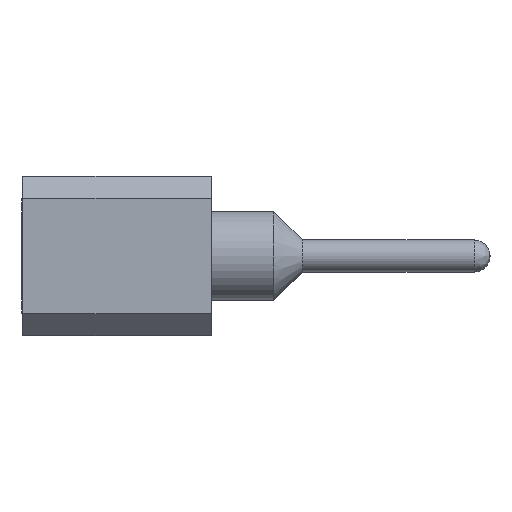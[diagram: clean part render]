
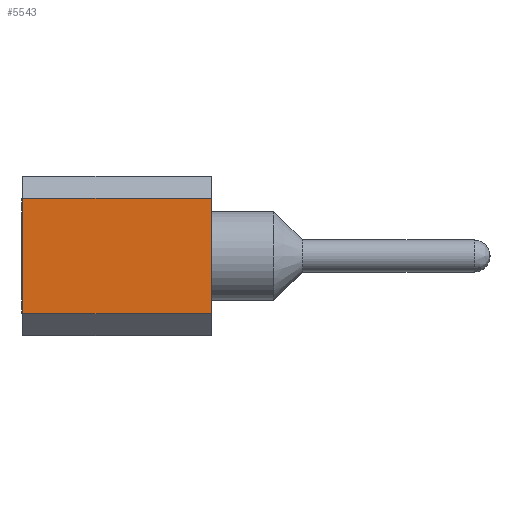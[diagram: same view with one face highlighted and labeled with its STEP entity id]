
A CAD part, left-side view. The second image highlights one B-rep face of the part: STEP entity #5543.
In plain terms, the highlighted planar face has unit normal (-1, 0, 0).
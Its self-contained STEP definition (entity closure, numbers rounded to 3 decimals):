
#264=PLANE('',#6164);
#681=FACE_OUTER_BOUND('',#1044,.T.);
#1044=EDGE_LOOP('',(#4647,#4648,#4649,#4650));
#1473=LINE('',#9616,#1979);
#1474=LINE('',#9619,#1980);
#1475=LINE('',#9621,#1981);
#1476=LINE('',#9622,#1982);
#1979=VECTOR('',#7570,10.);
#1980=VECTOR('',#7573,10.);
#1981=VECTOR('',#7574,10.);
#1982=VECTOR('',#7575,10.);
#2781=VERTEX_POINT('',#9612);
#2782=VERTEX_POINT('',#9614);
#2783=VERTEX_POINT('',#9618);
#2784=VERTEX_POINT('',#9620);
#3478=EDGE_CURVE('',#2781,#2782,#1473,.T.);
#3479=EDGE_CURVE('',#2781,#2783,#1474,.T.);
#3480=EDGE_CURVE('',#2784,#2782,#1475,.T.);
#3481=EDGE_CURVE('',#2783,#2784,#1476,.T.);
#4647=ORIENTED_EDGE('',*,*,#3479,.F.);
#4648=ORIENTED_EDGE('',*,*,#3478,.T.);
#4649=ORIENTED_EDGE('',*,*,#3480,.F.);
#4650=ORIENTED_EDGE('',*,*,#3481,.F.);
#5543=ADVANCED_FACE('',(#681),#264,.T.);
#6164=AXIS2_PLACEMENT_3D('',#9617,#7571,#7572);
#7570=DIRECTION('',(0.,1.,0.));
#7571=DIRECTION('center_axis',(-1.,0.,0.));
#7572=DIRECTION('ref_axis',(0.,0.,1.));
#7573=DIRECTION('',(0.,0.,-1.));
#7574=DIRECTION('',(0.,0.,1.));
#7575=DIRECTION('',(0.,1.,0.));
#9612=CARTESIAN_POINT('',(-1.266,0.,0.916));
#9614=CARTESIAN_POINT('',(-1.266,3.,0.916));
#9616=CARTESIAN_POINT('',(-1.266,0.,0.916));
#9617=CARTESIAN_POINT('Origin',(-1.266,0.,-0.911));
#9618=CARTESIAN_POINT('',(-1.266,0.,-0.911));
#9619=CARTESIAN_POINT('',(-1.266,0.,0.002));
#9620=CARTESIAN_POINT('',(-1.266,3.,-0.911));
#9621=CARTESIAN_POINT('',(-1.266,3.,0.002));
#9622=CARTESIAN_POINT('',(-1.266,0.,-0.911));
